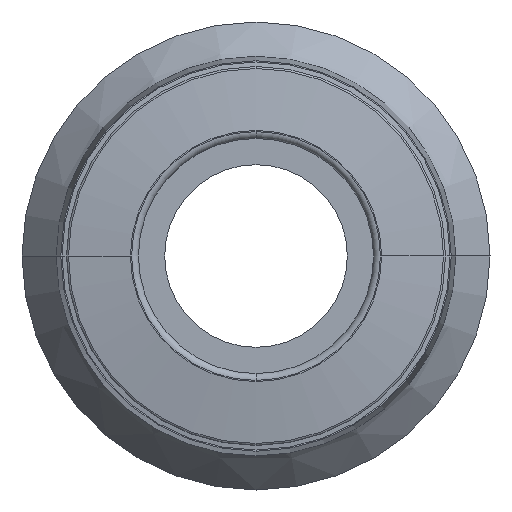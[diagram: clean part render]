
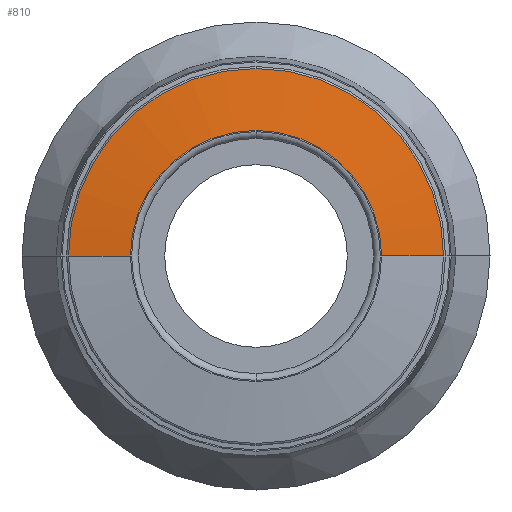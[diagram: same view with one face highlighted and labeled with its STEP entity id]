
A CAD part, front view. The second image highlights one B-rep face of the part: STEP entity #810.
In plain terms, the highlighted conical face has half-angle 81.87 degrees and reference radius 6.9 mm.
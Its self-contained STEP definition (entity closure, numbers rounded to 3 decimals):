
#5 = AXIS2_PLACEMENT_3D ( 'NONE', #1228, #233, #487 ) ;
#27 = AXIS2_PLACEMENT_3D ( 'NONE', #74, #1574, #1432 ) ;
#74 = CARTESIAN_POINT ( 'NONE',  ( 0., 0.388, 0. ) ) ;
#139 = DIRECTION ( 'NONE',  ( -1., 0., 0. ) ) ;
#233 = DIRECTION ( 'NONE',  ( 0., 1., 0. ) ) ;
#235 = ORIENTED_EDGE ( 'NONE', *, *, #661, .F. ) ;
#268 = CARTESIAN_POINT ( 'NONE',  ( 0., 0., 0. ) ) ;
#278 = CARTESIAN_POINT ( 'NONE',  ( -5.5, 0., 0. ) ) ;
#292 = CONICAL_SURFACE ( 'NONE', #5, 6.9, 1.429 ) ;
#312 = VERTEX_POINT ( 'NONE', #869 ) ;
#359 = CIRCLE ( 'NONE', #780, 5.5 ) ;
#381 = EDGE_CURVE ( 'NONE', #1183, #723, #526, .T. ) ;
#409 = AXIS2_PLACEMENT_3D ( 'NONE', #1099, #1201, #1082 ) ;
#446 = CARTESIAN_POINT ( 'NONE',  ( 5.5, 0., 0. ) ) ;
#473 = CARTESIAN_POINT ( 'NONE',  ( -6.9, 0.2, 0. ) ) ;
#487 = DIRECTION ( 'NONE',  ( -1., 0., 0. ) ) ;
#498 = VECTOR ( 'NONE', #1234, 1000. ) ;
#526 = LINE ( 'NONE', #1034, #559 ) ;
#559 = VECTOR ( 'NONE', #1537, 1000. ) ;
#569 = CARTESIAN_POINT ( 'NONE',  ( 8.214, 0.388, 0. ) ) ;
#643 = DIRECTION ( 'NONE',  ( 0., 1., 0. ) ) ;
#661 = EDGE_CURVE ( 'NONE', #1156, #723, #739, .T. ) ;
#723 = VERTEX_POINT ( 'NONE', #569 ) ;
#739 = CIRCLE ( 'NONE', #27, 8.214 ) ;
#741 = LINE ( 'NONE', #473, #498 ) ;
#780 = AXIS2_PLACEMENT_3D ( 'NONE', #268, #643, #139 ) ;
#798 = EDGE_CURVE ( 'NONE', #1568, #312, #741, .T. ) ;
#810 = ADVANCED_FACE ( 'NONE', ( #1585 ), #292, .T. ) ;
#851 = ORIENTED_EDGE ( 'NONE', *, *, #1347, .F. ) ;
#869 = CARTESIAN_POINT ( 'NONE',  ( -8.214, 0.388, 0. ) ) ;
#973 = ORIENTED_EDGE ( 'NONE', *, *, #977, .T. ) ;
#977 = EDGE_CURVE ( 'NONE', #1568, #1183, #359, .T. ) ;
#1034 = CARTESIAN_POINT ( 'NONE',  ( 6.9, 0.2, 0. ) ) ;
#1082 = DIRECTION ( 'NONE',  ( 1., 0., 0. ) ) ;
#1099 = CARTESIAN_POINT ( 'NONE',  ( 0., 0.388, 0. ) ) ;
#1121 = CIRCLE ( 'NONE', #409, 8.214 ) ;
#1156 = VERTEX_POINT ( 'NONE', #1411 ) ;
#1175 = ORIENTED_EDGE ( 'NONE', *, *, #798, .F. ) ;
#1183 = VERTEX_POINT ( 'NONE', #446 ) ;
#1186 = ORIENTED_EDGE ( 'NONE', *, *, #381, .T. ) ;
#1201 = DIRECTION ( 'NONE',  ( 0., 1., 0. ) ) ;
#1228 = CARTESIAN_POINT ( 'NONE',  ( 0., 0.2, 0. ) ) ;
#1234 = DIRECTION ( 'NONE',  ( -0.99, 0.141, 0. ) ) ;
#1331 = EDGE_LOOP ( 'NONE', ( #973, #1186, #235, #851, #1175 ) ) ;
#1347 = EDGE_CURVE ( 'NONE', #312, #1156, #1121, .T. ) ;
#1411 = CARTESIAN_POINT ( 'NONE',  ( 0., 0.388, 8.214 ) ) ;
#1432 = DIRECTION ( 'NONE',  ( 1., 0., 0. ) ) ;
#1537 = DIRECTION ( 'NONE',  ( 0.99, 0.141, 0. ) ) ;
#1568 = VERTEX_POINT ( 'NONE', #278 ) ;
#1574 = DIRECTION ( 'NONE',  ( 0., 1., 0. ) ) ;
#1585 = FACE_OUTER_BOUND ( 'NONE', #1331, .T. ) ;
